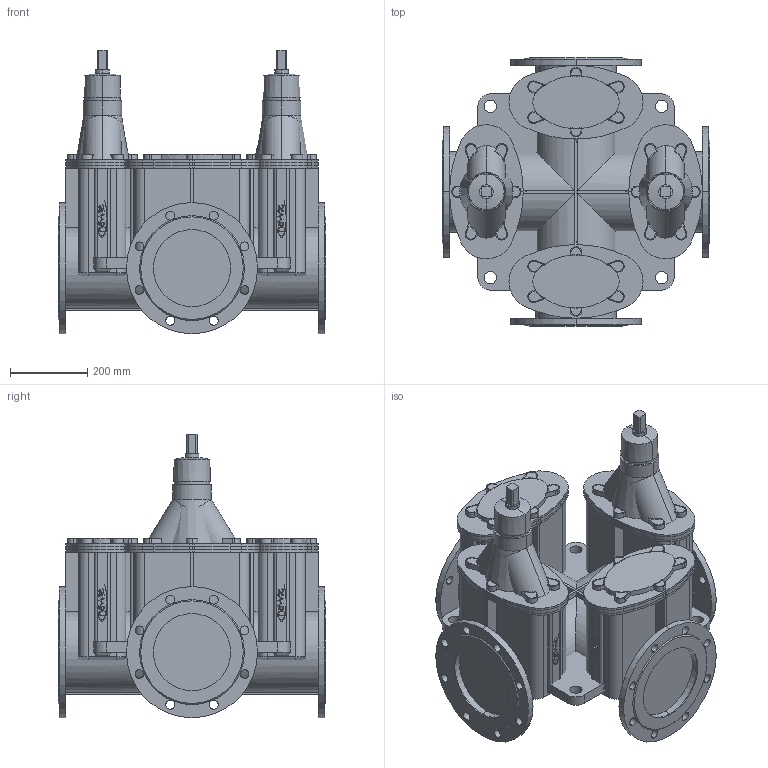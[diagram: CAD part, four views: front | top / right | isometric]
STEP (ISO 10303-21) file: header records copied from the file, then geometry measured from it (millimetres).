
FILE_DESCRIPTION(('STEP AP214'),'1');
FILE_NAME('S:/EK/USER/CAT6/3DHomepage_27-04-2012/neu_10-04-2013/4400E2/4400E2_PN10_DN200_2_9-B-3-B.STP','2013-04-10T12:41:12',(' '),(' '),'Spatial InterOp 3D',' ',' ');
FILE_SCHEMA(('automotive_design'));
Length unit declared in the file: millimetre
Products named in the file (186): 3D-Objekt
Bounding box: 695 x 695 x 735 mm (x, y, z)
Volume: 103644793 mm3; surface area: 6069656.8 mm2
Topology: 186 solids, 186 shells, 1806 faces, 4268 edges, 2842 vertices
Faces by surface type: plane 962, cylinder 792, cone 20, bspline 16, torus 16
Entity records: 71616 total; most frequent: DIRECTION 9920, CARTESIAN_POINT 9374, ORIENTED_EDGE 8536, EDGE_CURVE 4268, AXIS2_PLACEMENT_3D 3676, VERTEX_POINT 2842, LINE 2568, VECTOR 2568
